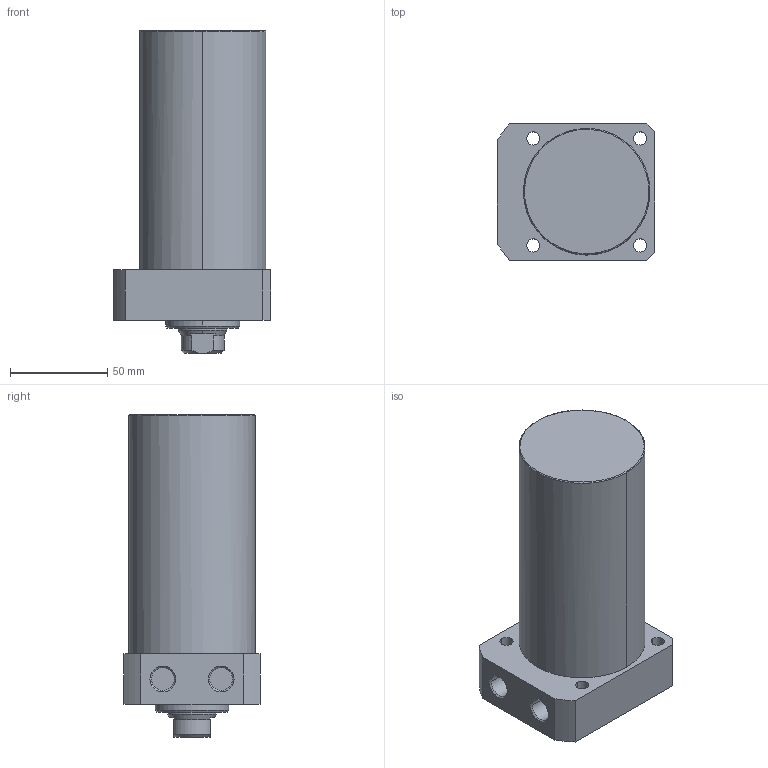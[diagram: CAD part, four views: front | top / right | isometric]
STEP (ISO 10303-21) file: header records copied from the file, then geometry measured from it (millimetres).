
FILE_DESCRIPTION((' '),'2;1');
FILE_NAME( 'TLLR-065CA-090.STEP.stp', '2025-10-24T16:34:53', (' '), ('--- Datakit www.datakit.com---'), ' Datakit CrossCadWare V2024.1 Dec 21 2023', 'Mastercam 2025', ' ');
FILE_SCHEMA(('AUTOMOTIVE_DESIGN { 1 0 10303 214 1 1 1 1 }'));
Length unit declared in the file: millimetre
Products named in the file (1): TLLR-065CA-090
Bounding box: 81 x 70 x 166 mm (x, y, z)
Volume: 552101.3 mm3; surface area: 49530.8 mm2
Topology: 1 solids, 1 shells, 63 faces, 177 edges, 122 vertices
Faces by surface type: cylinder 28, plane 19, cone 14, torus 2
Entity records: 2168 total; most frequent: CARTESIAN_POINT 405, DIRECTION 400, ORIENTED_EDGE 350, EDGE_CURVE 175, AXIS2_PLACEMENT_3D 169, VERTEX_POINT 122, CIRCLE 105, EDGE_LOOP 79
